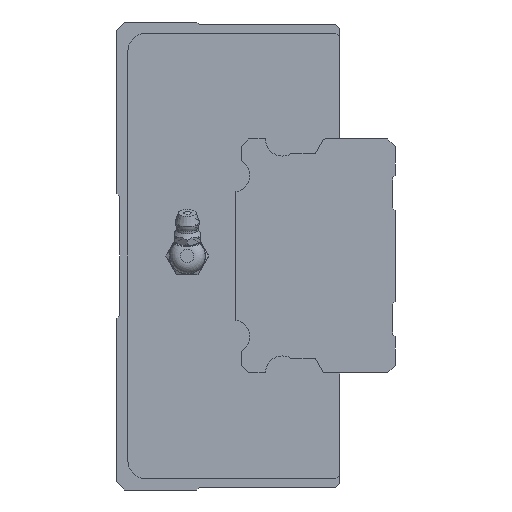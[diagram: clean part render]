
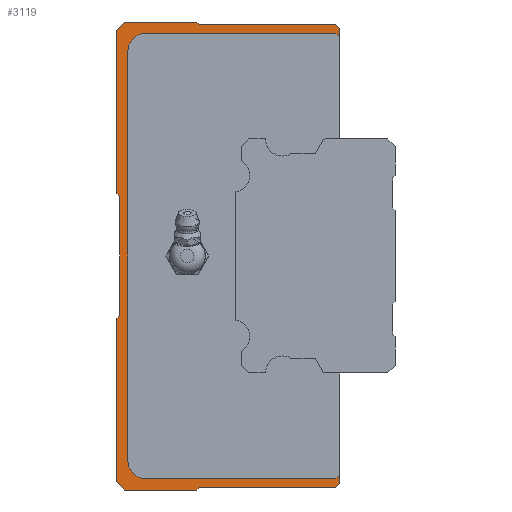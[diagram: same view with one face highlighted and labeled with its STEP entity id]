
A CAD part, left-side view. The second image highlights one B-rep face of the part: STEP entity #3119.
In plain terms, the highlighted planar face has unit normal (-1, 0, 0).
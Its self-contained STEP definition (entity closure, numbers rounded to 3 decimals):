
#207=CIRCLE('',#3456,5.);
#208=CIRCLE('',#3457,5.);
#789=ORIENTED_EDGE('',*,*,#1436,.F.);
#790=ORIENTED_EDGE('',*,*,#1298,.F.);
#791=ORIENTED_EDGE('',*,*,#1392,.F.);
#792=ORIENTED_EDGE('',*,*,#1389,.F.);
#793=ORIENTED_EDGE('',*,*,#1386,.F.);
#794=ORIENTED_EDGE('',*,*,#1383,.F.);
#795=ORIENTED_EDGE('',*,*,#1379,.F.);
#796=ORIENTED_EDGE('',*,*,#1427,.F.);
#797=ORIENTED_EDGE('',*,*,#1421,.F.);
#798=ORIENTED_EDGE('',*,*,#1418,.F.);
#799=ORIENTED_EDGE('',*,*,#1415,.F.);
#800=ORIENTED_EDGE('',*,*,#1412,.F.);
#801=ORIENTED_EDGE('',*,*,#1406,.F.);
#802=ORIENTED_EDGE('',*,*,#1403,.F.);
#803=ORIENTED_EDGE('',*,*,#1400,.F.);
#804=ORIENTED_EDGE('',*,*,#1397,.F.);
#805=ORIENTED_EDGE('',*,*,#1394,.F.);
#806=ORIENTED_EDGE('',*,*,#1304,.F.);
#807=ORIENTED_EDGE('',*,*,#1437,.F.);
#808=ORIENTED_EDGE('',*,*,#1438,.F.);
#809=ORIENTED_EDGE('',*,*,#1439,.F.);
#810=ORIENTED_EDGE('',*,*,#1440,.F.);
#811=ORIENTED_EDGE('',*,*,#1441,.F.);
#812=ORIENTED_EDGE('',*,*,#1442,.F.);
#1298=EDGE_CURVE('',#1677,#1678,#1963,.T.);
#1304=EDGE_CURVE('',#1683,#1684,#1969,.T.);
#1379=EDGE_CURVE('',#1754,#1755,#2010,.T.);
#1383=EDGE_CURVE('',#1755,#1758,#2014,.T.);
#1386=EDGE_CURVE('',#1758,#1760,#2017,.T.);
#1389=EDGE_CURVE('',#1760,#1762,#2020,.T.);
#1392=EDGE_CURVE('',#1762,#1677,#2023,.T.);
#1394=EDGE_CURVE('',#1684,#1764,#2025,.T.);
#1397=EDGE_CURVE('',#1764,#1766,#2028,.T.);
#1400=EDGE_CURVE('',#1766,#1768,#2031,.T.);
#1403=EDGE_CURVE('',#1768,#1770,#2034,.T.);
#1406=EDGE_CURVE('',#1770,#1772,#2037,.T.);
#1412=EDGE_CURVE('',#1772,#1777,#2040,.T.);
#1415=EDGE_CURVE('',#1777,#1779,#2043,.T.);
#1418=EDGE_CURVE('',#1779,#1781,#2046,.T.);
#1421=EDGE_CURVE('',#1781,#1783,#2049,.T.);
#1427=EDGE_CURVE('',#1783,#1754,#2052,.T.);
#1436=EDGE_CURVE('',#1678,#1794,#2059,.T.);
#1437=EDGE_CURVE('',#1795,#1683,#2060,.T.);
#1438=EDGE_CURVE('',#1796,#1795,#2061,.T.);
#1439=EDGE_CURVE('',#1797,#1796,#207,.F.);
#1440=EDGE_CURVE('',#1798,#1797,#2062,.T.);
#1441=EDGE_CURVE('',#1799,#1798,#208,.F.);
#1442=EDGE_CURVE('',#1794,#1799,#2063,.T.);
#1677=VERTEX_POINT('',#4876);
#1678=VERTEX_POINT('',#4878);
#1683=VERTEX_POINT('',#4889);
#1684=VERTEX_POINT('',#4891);
#1754=VERTEX_POINT('',#5039);
#1755=VERTEX_POINT('',#5040);
#1758=VERTEX_POINT('',#5048);
#1760=VERTEX_POINT('',#5054);
#1762=VERTEX_POINT('',#5060);
#1764=VERTEX_POINT('',#5069);
#1766=VERTEX_POINT('',#5075);
#1768=VERTEX_POINT('',#5081);
#1770=VERTEX_POINT('',#5087);
#1772=VERTEX_POINT('',#5093);
#1777=VERTEX_POINT('',#5105);
#1779=VERTEX_POINT('',#5111);
#1781=VERTEX_POINT('',#5117);
#1783=VERTEX_POINT('',#5123);
#1794=VERTEX_POINT('',#5152);
#1795=VERTEX_POINT('',#5154);
#1796=VERTEX_POINT('',#5156);
#1797=VERTEX_POINT('',#5158);
#1798=VERTEX_POINT('',#5160);
#1799=VERTEX_POINT('',#5162);
#1963=LINE('',#4877,#2205);
#1969=LINE('',#4890,#2211);
#2010=LINE('',#5038,#2252);
#2014=LINE('',#5047,#2256);
#2017=LINE('',#5053,#2259);
#2020=LINE('',#5059,#2262);
#2023=LINE('',#5065,#2265);
#2025=LINE('',#5068,#2267);
#2028=LINE('',#5074,#2270);
#2031=LINE('',#5080,#2273);
#2034=LINE('',#5086,#2276);
#2037=LINE('',#5092,#2279);
#2040=LINE('',#5104,#2282);
#2043=LINE('',#5110,#2285);
#2046=LINE('',#5116,#2288);
#2049=LINE('',#5122,#2291);
#2052=LINE('',#5134,#2294);
#2059=LINE('',#5151,#2301);
#2060=LINE('',#5153,#2302);
#2061=LINE('',#5155,#2303);
#2062=LINE('',#5159,#2304);
#2063=LINE('',#5163,#2305);
#2205=VECTOR('',#3963,1000.);
#2211=VECTOR('',#3971,1000.);
#2252=VECTOR('',#4086,1000.);
#2256=VECTOR('',#4092,1000.);
#2259=VECTOR('',#4097,1000.);
#2262=VECTOR('',#4102,1000.);
#2265=VECTOR('',#4107,1000.);
#2267=VECTOR('',#4111,1000.);
#2270=VECTOR('',#4116,1000.);
#2273=VECTOR('',#4121,1000.);
#2276=VECTOR('',#4126,1000.);
#2279=VECTOR('',#4131,1000.);
#2282=VECTOR('',#4142,1000.);
#2285=VECTOR('',#4147,1000.);
#2288=VECTOR('',#4152,1000.);
#2291=VECTOR('',#4157,1000.);
#2294=VECTOR('',#4168,1000.);
#2301=VECTOR('',#4183,1000.);
#2302=VECTOR('',#4184,1000.);
#2303=VECTOR('',#4185,1000.);
#2304=VECTOR('',#4188,1000.);
#2305=VECTOR('',#4191,1000.);
#2496=EDGE_LOOP('',(#789,#790,#791,#792,#793,#794,#795,#796,#797,#798,#799,
#800,#801,#802,#803,#804,#805,#806,#807,#808,#809,#810,#811,#812));
#2779=FACE_BOUND('',#2496,.T.);
#2985=PLANE('',#3455);
#3119=ADVANCED_FACE('',(#2779),#2985,.F.);
#3455=AXIS2_PLACEMENT_3D('',#5150,#4181,#4182);
#3456=AXIS2_PLACEMENT_3D('',#5157,#4186,#4187);
#3457=AXIS2_PLACEMENT_3D('',#5161,#4189,#4190);
#3963=DIRECTION('',(0.,0.,-1.));
#3971=DIRECTION('',(0.,0.,-1.));
#4086=DIRECTION('',(0.,-0.707,0.707));
#4092=DIRECTION('',(0.,-1.,0.));
#4097=DIRECTION('',(0.,-0.707,-0.707));
#4102=DIRECTION('',(0.,-1.,0.));
#4107=DIRECTION('',(0.,-0.707,-0.707));
#4111=DIRECTION('',(0.,0.707,-0.707));
#4116=DIRECTION('',(0.,1.,0.));
#4121=DIRECTION('',(0.,0.707,-0.707));
#4126=DIRECTION('',(0.,1.,0.));
#4131=DIRECTION('',(0.,0.707,0.707));
#4142=DIRECTION('',(0.,0.,1.));
#4147=DIRECTION('',(0.,-0.707,0.707));
#4152=DIRECTION('',(0.,0.,1.));
#4157=DIRECTION('',(0.,0.707,0.707));
#4168=DIRECTION('',(0.,0.,1.));
#4181=DIRECTION('',(1.,0.,0.));
#4182=DIRECTION('',(0.,0.,-1.));
#4183=DIRECTION('',(0.,0.707,0.707));
#4184=DIRECTION('',(0.,-0.707,0.707));
#4185=DIRECTION('',(0.,-1.,0.));
#4186=DIRECTION('',(1.,0.,0.));
#4187=DIRECTION('',(0.,0.,-1.));
#4188=DIRECTION('',(0.,0.,-1.));
#4189=DIRECTION('',(1.,0.,0.));
#4190=DIRECTION('',(0.,0.,-1.));
#4191=DIRECTION('',(0.,1.,0.));
#4876=CARTESIAN_POINT('',(-101.8,0.,61.3));
#4877=CARTESIAN_POINT('',(-101.8,0.,61.3));
#4878=CARTESIAN_POINT('',(-101.8,0.,59.));
#4889=CARTESIAN_POINT('',(-101.8,0.,-59.));
#4890=CARTESIAN_POINT('',(-101.8,0.,61.3));
#4891=CARTESIAN_POINT('',(-101.8,0.,-61.3));
#5038=CARTESIAN_POINT('',(-101.8,60.,60.8));
#5039=CARTESIAN_POINT('',(-101.8,60.,60.8));
#5040=CARTESIAN_POINT('',(-101.8,57.8,63.));
#5047=CARTESIAN_POINT('',(-101.8,57.8,63.));
#5048=CARTESIAN_POINT('',(-101.8,38.4,63.));
#5053=CARTESIAN_POINT('',(-101.8,38.4,63.));
#5054=CARTESIAN_POINT('',(-101.8,37.8,62.4));
#5059=CARTESIAN_POINT('',(-101.8,37.8,62.4));
#5060=CARTESIAN_POINT('',(-101.8,1.1,62.4));
#5065=CARTESIAN_POINT('',(-101.8,1.1,62.4));
#5068=CARTESIAN_POINT('',(-101.8,0.,-61.3));
#5069=CARTESIAN_POINT('',(-101.8,1.1,-62.4));
#5074=CARTESIAN_POINT('',(-101.8,1.1,-62.4));
#5075=CARTESIAN_POINT('',(-101.8,37.8,-62.4));
#5080=CARTESIAN_POINT('',(-101.8,37.8,-62.4));
#5081=CARTESIAN_POINT('',(-101.8,38.4,-63.));
#5086=CARTESIAN_POINT('',(-101.8,38.4,-63.));
#5087=CARTESIAN_POINT('',(-101.8,57.8,-63.));
#5092=CARTESIAN_POINT('',(-101.8,57.8,-63.));
#5093=CARTESIAN_POINT('',(-101.8,60.,-60.8));
#5104=CARTESIAN_POINT('',(-101.8,60.,-60.8));
#5105=CARTESIAN_POINT('',(-101.8,60.,-16.8));
#5110=CARTESIAN_POINT('',(-101.8,60.,-16.8));
#5111=CARTESIAN_POINT('',(-101.8,59.2,-16.));
#5116=CARTESIAN_POINT('',(-101.8,59.2,-16.));
#5117=CARTESIAN_POINT('',(-101.8,59.2,16.));
#5122=CARTESIAN_POINT('',(-101.8,59.2,16.));
#5123=CARTESIAN_POINT('',(-101.8,60.,16.8));
#5134=CARTESIAN_POINT('',(-101.8,60.,16.8));
#5150=CARTESIAN_POINT('',(-101.8,0.,0.));
#5151=CARTESIAN_POINT('',(-101.8,-29.5,29.5));
#5152=CARTESIAN_POINT('',(-101.8,1.,60.));
#5153=CARTESIAN_POINT('',(-101.8,-29.5,-29.5));
#5154=CARTESIAN_POINT('',(-101.8,1.,-60.));
#5155=CARTESIAN_POINT('',(-101.8,0.,-60.));
#5156=CARTESIAN_POINT('',(-101.8,52.,-60.));
#5157=CARTESIAN_POINT('',(-101.8,52.,-55.));
#5158=CARTESIAN_POINT('',(-101.8,57.,-55.));
#5159=CARTESIAN_POINT('',(-101.8,57.,0.));
#5160=CARTESIAN_POINT('',(-101.8,57.,55.));
#5161=CARTESIAN_POINT('',(-101.8,52.,55.));
#5162=CARTESIAN_POINT('',(-101.8,52.,60.));
#5163=CARTESIAN_POINT('',(-101.8,0.,60.));
